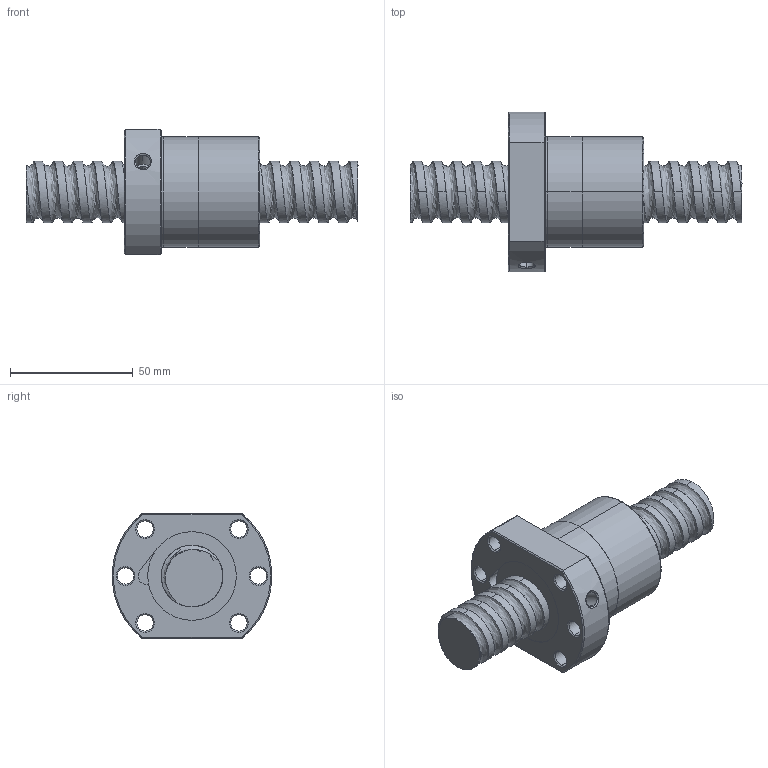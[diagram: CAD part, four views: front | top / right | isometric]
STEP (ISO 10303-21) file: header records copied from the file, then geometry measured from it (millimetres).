
FILE_DESCRIPTION (( 'STEP AP214' ), '1' );
FILE_NAME ('FSDC02508T4-D-C.STEP', '2010-06-25T11:30:44', ( 'XPAUTO' ), ( 'XPAUTO' ), 'SwSTEP 2.0', 'SolidWorks 2007', '' );
FILE_SCHEMA (( 'AUTOMOTIVE_DESIGN' ));
Length unit declared in the file: millimetre
Products named in the file (3): FSDC02508T4-D-C.sldasm-Part-2_預設; FSDC02508T4-D-C.sldasm-Part-1_預設; FSDC02508T4-D-C
Assembly tree (2 placements, depth 2):
  FSDC02508T4-D-C
    FSDC02508T4-D-C.sldasm-Part-2_預設
    FSDC02508T4-D-C.sldasm-Part-1_預設
Bounding box: 135 x 64.78 x 51 mm (x, y, z)
Volume: 134229.3 mm3; surface area: 33143 mm2
Topology: 2 solids, 2 shells, 129 faces, 321 edges, 201 vertices
Faces by surface type: cylinder 72, cone 24, plane 22, torus 6, bspline 5
Entity records: 25817 total; most frequent: CARTESIAN_POINT 22757, ORIENTED_EDGE 642, DIRECTION 589, EDGE_CURVE 321, AXIS2_PLACEMENT_3D 238, VERTEX_POINT 201, EDGE_LOOP 150, ADVANCED_FACE 129
